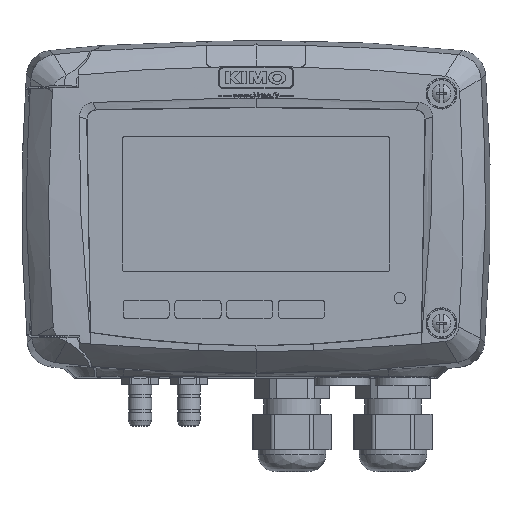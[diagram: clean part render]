
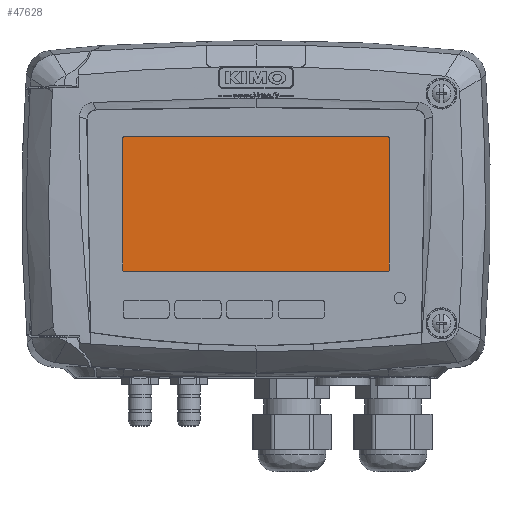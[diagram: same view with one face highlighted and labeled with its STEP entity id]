
A CAD part, top view. The second image highlights one B-rep face of the part: STEP entity #47628.
In plain terms, the highlighted planar face has unit normal (0, 0, 1).
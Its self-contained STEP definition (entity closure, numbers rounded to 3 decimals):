
#12985=DIRECTION('',(0.,1.,0.));
#12986=VECTOR('',#12985,35.);
#12987=CARTESIAN_POINT('',(35.5,-18.,38.095));
#12988=LINE('',#12987,#12986);
#12993=CARTESIAN_POINT('',(35.,-18.,38.095));
#12994=DIRECTION('',(0.,0.,-1.));
#12995=DIRECTION('',(1.,0.,0.));
#12996=AXIS2_PLACEMENT_3D('',#12993,#12994,#12995);
#13007=DIRECTION('',(1.,0.,0.));
#13008=VECTOR('',#13007,70.);
#13009=CARTESIAN_POINT('',(-35.,-18.5,38.095));
#13010=LINE('',#13009,#13008);
#13015=CARTESIAN_POINT('',(-35.,-18.,38.095));
#13016=DIRECTION('',(0.,0.,-1.));
#13017=DIRECTION('',(0.,-1.,0.));
#13018=AXIS2_PLACEMENT_3D('',#13015,#13016,#13017);
#13029=DIRECTION('',(0.,-1.,0.));
#13030=VECTOR('',#13029,35.);
#13031=CARTESIAN_POINT('',(-35.5,17.,38.095));
#13032=LINE('',#13031,#13030);
#13037=CARTESIAN_POINT('',(-35.,17.,38.095));
#13038=DIRECTION('',(0.,0.,-1.));
#13039=DIRECTION('',(-1.,0.,0.));
#13040=AXIS2_PLACEMENT_3D('',#13037,#13038,#13039);
#13051=DIRECTION('',(-1.,0.,0.));
#13052=VECTOR('',#13051,70.);
#13053=CARTESIAN_POINT('',(35.,17.5,38.095));
#13054=LINE('',#13053,#13052);
#13059=CARTESIAN_POINT('',(35.,17.,38.095));
#13060=DIRECTION('',(0.,0.,-1.));
#13061=DIRECTION('',(0.,1.,0.));
#13062=AXIS2_PLACEMENT_3D('',#13059,#13060,#13061);
#30455=CARTESIAN_POINT('',(35.5,-18.,38.095));
#30456=CARTESIAN_POINT('',(35.5,17.,38.095));
#30457=VERTEX_POINT('',#30455);
#30458=VERTEX_POINT('',#30456);
#30459=CARTESIAN_POINT('',(35.,17.5,38.095));
#30460=VERTEX_POINT('',#30459);
#30461=CARTESIAN_POINT('',(-35.,17.5,38.095));
#30462=VERTEX_POINT('',#30461);
#30463=CARTESIAN_POINT('',(-35.5,17.,38.095));
#30464=VERTEX_POINT('',#30463);
#30465=CARTESIAN_POINT('',(-35.5,-18.,38.095));
#30466=VERTEX_POINT('',#30465);
#30467=CARTESIAN_POINT('',(-35.,-18.5,38.095));
#30468=VERTEX_POINT('',#30467);
#30469=CARTESIAN_POINT('',(35.,-18.5,38.095));
#30470=VERTEX_POINT('',#30469);
#47606=CARTESIAN_POINT('',(0.,0.,
38.095));
#47607=DIRECTION('',(0.,0.,1.));
#47608=DIRECTION('',(-1.,0.,0.));
#47609=AXIS2_PLACEMENT_3D('',#47606,#47607,#47608);
#47610=PLANE('',#47609);
#47611=ORIENTED_EDGE('',*,*,#47596,.F.);
#47613=ORIENTED_EDGE('',*,*,#47612,.T.);
#47615=ORIENTED_EDGE('',*,*,#47614,.F.);
#47617=ORIENTED_EDGE('',*,*,#47616,.T.);
#47619=ORIENTED_EDGE('',*,*,#47618,.F.);
#47621=ORIENTED_EDGE('',*,*,#47620,.T.);
#47623=ORIENTED_EDGE('',*,*,#47622,.F.);
#47625=ORIENTED_EDGE('',*,*,#47624,.T.);
#47626=EDGE_LOOP('',(#47611,#47613,#47615,#47617,#47619,#47621,#47623,#47625));
#47627=FACE_OUTER_BOUND('',#47626,.F.);
#12997=CIRCLE('',#12996,0.5);
#13019=CIRCLE('',#13018,0.5);
#13041=CIRCLE('',#13040,0.5);
#13063=CIRCLE('',#13062,0.5);
#47596=EDGE_CURVE('',#30457,#30458,#12988,.T.);
#47612=EDGE_CURVE('',#30457,#30470,#12997,.T.);
#47614=EDGE_CURVE('',#30468,#30470,#13010,.T.);
#47616=EDGE_CURVE('',#30468,#30466,#13019,.T.);
#47618=EDGE_CURVE('',#30464,#30466,#13032,.T.);
#47620=EDGE_CURVE('',#30464,#30462,#13041,.T.);
#47622=EDGE_CURVE('',#30460,#30462,#13054,.T.);
#47624=EDGE_CURVE('',#30460,#30458,#13063,.T.);
#47628=ADVANCED_FACE('',(#47627),#47610,.T.);
